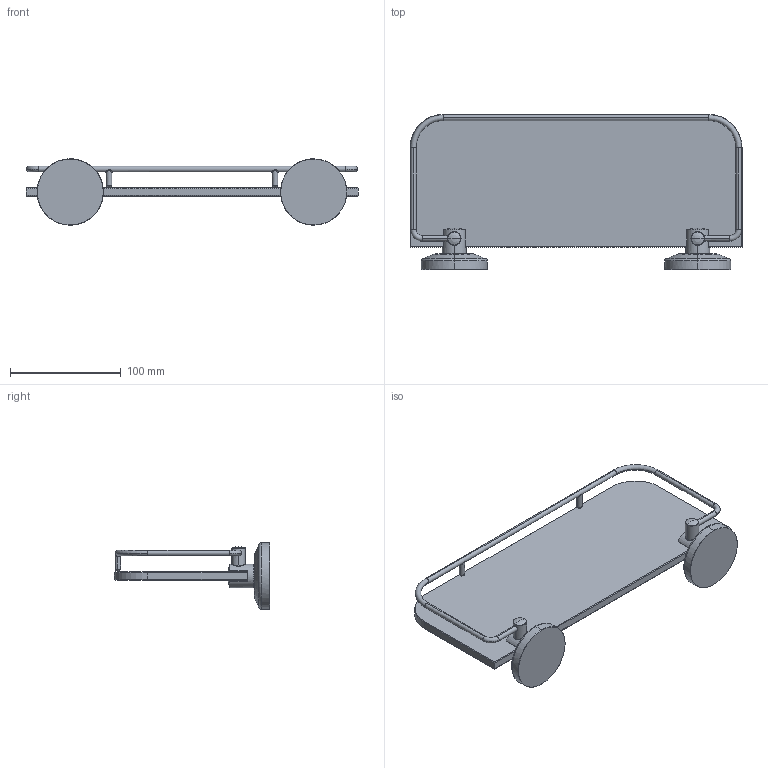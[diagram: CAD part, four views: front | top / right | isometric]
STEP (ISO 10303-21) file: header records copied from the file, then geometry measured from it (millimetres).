
FILE_DESCRIPTION(('THIS FILE CONTAINS SOME STEP INSTANCES'),'1');
FILE_NAME('sta_013.stp','2015-12-02T15:25:58',('UNDEFINED'),('UNDEFINED'),'T-FLEX CAD STEP converter','T-FLEX CAD','');
FILE_SCHEMA(('CONFIG_CONTROL_DESIGN'));
Length unit declared in the file: metre
Products named in the file (2): 3D 鐨飹懤艜_12; 610515
Bounding box: 300 x 140.1 x 60 mm (x, y, z)
Volume: 379386.4 mm3; surface area: 105744.2 mm2
Topology: 2 solids, 2 shells, 162 faces, 366 edges, 206 vertices
Faces by surface type: plane 46, cone 36, cylinder 28, bspline 26, torus 16, sphere 10
Entity records: 12167 total; most frequent: CARTESIAN_POINT 9047, ORIENTED_EDGE 724, DIRECTION 534, EDGE_CURVE 362, VERTEX_POINT 206, AXIS2_PLACEMENT_3D 191, EDGE_LOOP 164, ADVANCED_FACE 162
